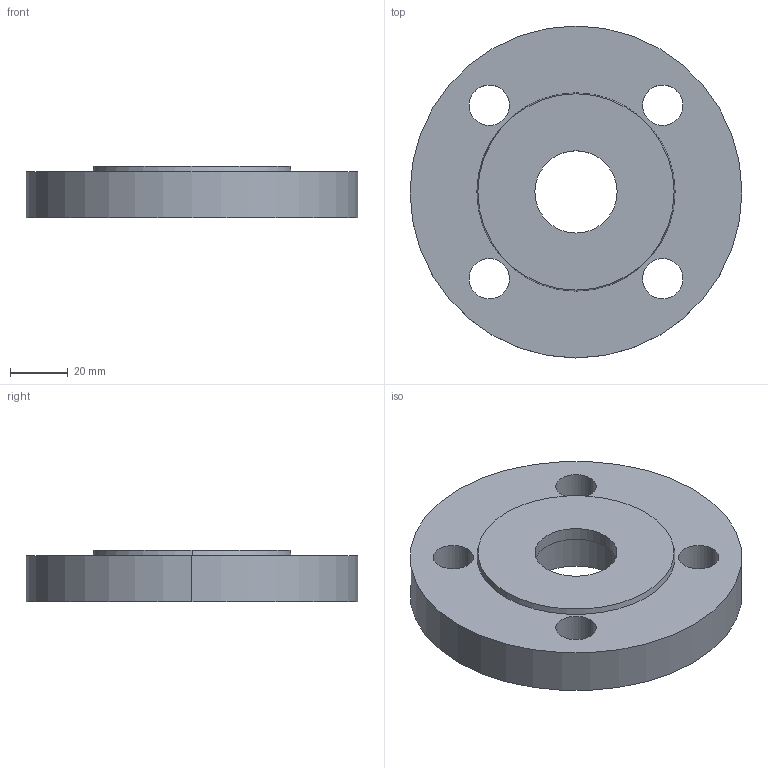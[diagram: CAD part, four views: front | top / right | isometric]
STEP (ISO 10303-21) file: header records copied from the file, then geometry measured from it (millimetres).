
FILE_DESCRIPTION (( 'STEP AP214' ), '1' );
FILE_NAME ('PN40 DN25 Type 05 - Socket (Type B) - Not in Standard.STEP', '2018-12-29T20:36:03', ( '' ), ( '' ), 'SwSTEP 2.0', 'SolidWorks 2019', '' );
FILE_SCHEMA (( 'AUTOMOTIVE_DESIGN' ));
Length unit declared in the file: millimetre
Products named in the file (1): PN40 DN25 Type 05 - Socket (Type B) - Not in Standard
Bounding box: 115 x 115 x 18 mm (x, y, z)
Volume: 148186.4 mm3; surface area: 29088.3 mm2
Topology: 1 solids, 1 shells, 20 faces, 48 edges, 32 vertices
Faces by surface type: cylinder 14, plane 4, cone 2
Entity records: 658 total; most frequent: DIRECTION 122, CARTESIAN_POINT 101, ORIENTED_EDGE 96, AXIS2_PLACEMENT_3D 53, EDGE_CURVE 48, CIRCLE 32, EDGE_LOOP 32, VERTEX_POINT 32
